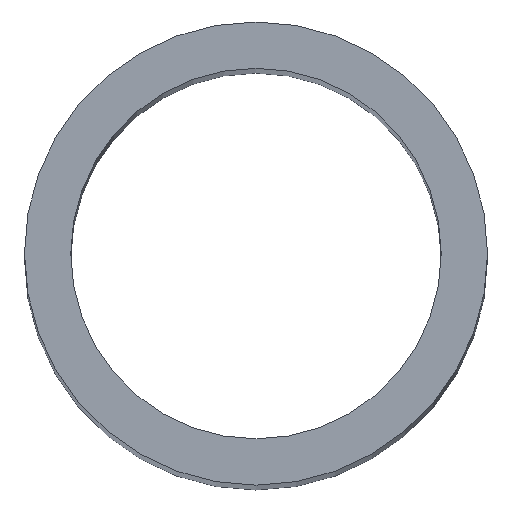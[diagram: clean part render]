
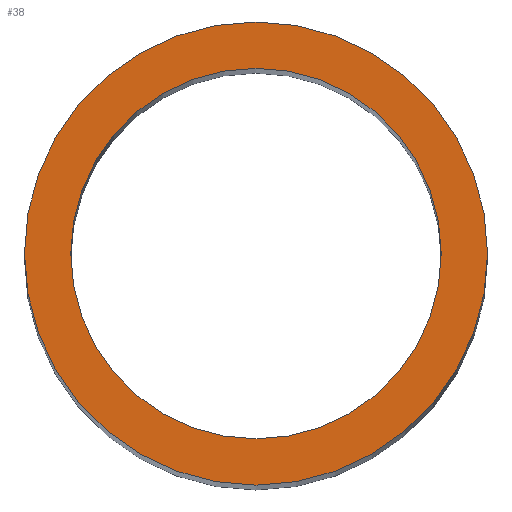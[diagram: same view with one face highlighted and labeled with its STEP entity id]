
A CAD part, top view. The second image highlights one B-rep face of the part: STEP entity #38.
In plain terms, the highlighted planar face has unit normal (0, 0, 1).
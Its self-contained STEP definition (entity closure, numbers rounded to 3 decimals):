
#1 = DIRECTION ( 'NONE',  ( 0., 0., 1. ) ) ;
#6 = DIRECTION ( 'NONE',  ( 1., 0., 0. ) ) ;
#15 = CARTESIAN_POINT ( 'NONE',  ( 0., 0., 150. ) ) ;
#16 = AXIS2_PLACEMENT_3D ( 'NONE', #15, #1, #6 ) ;
#17 = CIRCLE ( 'NONE', #16, 10. ) ;
#18 = CARTESIAN_POINT ( 'NONE',  ( -12.5, 0., 150. ) ) ;
#33 = DIRECTION ( 'NONE',  ( 1., 0., 0. ) ) ;
#34 = DIRECTION ( 'NONE',  ( 0., 0., 1. ) ) ;
#37 = EDGE_LOOP ( 'NONE', ( #53, #47 ) ) ;
#38 = ADVANCED_FACE ( 'NONE', ( #82, #111 ), #109, .T. ) ;
#39 = ORIENTED_EDGE ( 'NONE', *, *, #115, .T. ) ;
#47 = ORIENTED_EDGE ( 'NONE', *, *, #48, .F. ) ;
#48 = EDGE_CURVE ( 'NONE', #74, #73, #92, .T. ) ;
#53 = ORIENTED_EDGE ( 'NONE', *, *, #68, .F. ) ;
#67 = VERTEX_POINT ( 'NONE', #18 ) ;
#68 = EDGE_CURVE ( 'NONE', #73, #74, #17, .T. ) ;
#73 = VERTEX_POINT ( 'NONE', #170 ) ;
#74 = VERTEX_POINT ( 'NONE', #169 ) ;
#81 = CARTESIAN_POINT ( 'NONE',  ( 0., 0., 150. ) ) ;
#82 = FACE_OUTER_BOUND ( 'NONE', #87, .T. ) ;
#84 = EDGE_CURVE ( 'NONE', #67, #113, #162, .T. ) ;
#86 = ORIENTED_EDGE ( 'NONE', *, *, #84, .T. ) ;
#87 = EDGE_LOOP ( 'NONE', ( #86, #39 ) ) ;
#92 = CIRCLE ( 'NONE', #95, 10. ) ;
#95 = AXIS2_PLACEMENT_3D ( 'NONE', #81, #34, #33 ) ;
#105 = DIRECTION ( 'NONE',  ( 1., 0., 0. ) ) ;
#106 = DIRECTION ( 'NONE',  ( 0., 0., 1. ) ) ;
#107 = CARTESIAN_POINT ( 'NONE',  ( 0., 0., 150. ) ) ;
#108 = AXIS2_PLACEMENT_3D ( 'NONE', #107, #106, #105 ) ;
#109 = PLANE ( 'NONE',  #108 ) ;
#111 = FACE_BOUND ( 'NONE', #37, .T. ) ;
#113 = VERTEX_POINT ( 'NONE', #151 ) ;
#115 = EDGE_CURVE ( 'NONE', #113, #67, #246, .T. ) ;
#144 = DIRECTION ( 'NONE',  ( 1., 0., 0. ) ) ;
#145 = DIRECTION ( 'NONE',  ( 0., 0., 1. ) ) ;
#146 = AXIS2_PLACEMENT_3D ( 'NONE', #161, #145, #144 ) ;
#151 = CARTESIAN_POINT ( 'NONE',  ( 12.5, 0., 150. ) ) ;
#161 = CARTESIAN_POINT ( 'NONE',  ( 0., 0., 150. ) ) ;
#162 = CIRCLE ( 'NONE', #146, 12.5 ) ;
#169 = CARTESIAN_POINT ( 'NONE',  ( 10., 0., 150. ) ) ;
#170 = CARTESIAN_POINT ( 'NONE',  ( -10., 0., 150. ) ) ;
#243 = DIRECTION ( 'NONE',  ( 1., 0., 0. ) ) ;
#244 = DIRECTION ( 'NONE',  ( 0., 0., 1. ) ) ;
#245 = AXIS2_PLACEMENT_3D ( 'NONE', #249, #244, #243 ) ;
#246 = CIRCLE ( 'NONE', #245, 12.5 ) ;
#249 = CARTESIAN_POINT ( 'NONE',  ( 0., 0., 150. ) ) ;
